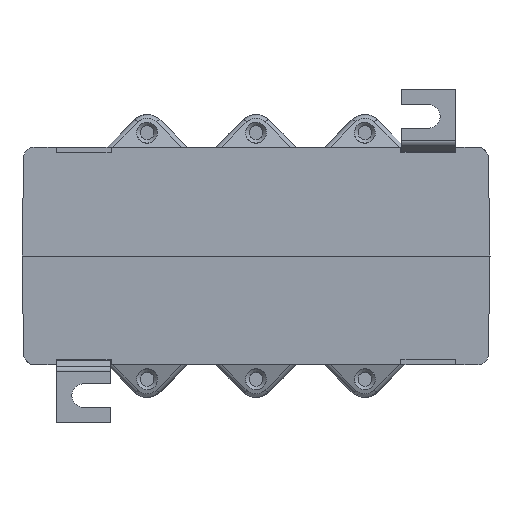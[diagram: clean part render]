
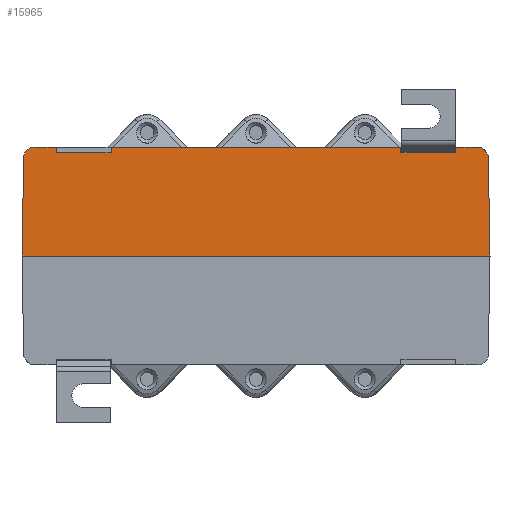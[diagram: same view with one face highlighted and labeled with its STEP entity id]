
A CAD part, front view. The second image highlights one B-rep face of the part: STEP entity #15965.
In plain terms, the highlighted planar face has unit normal (0, -1, 0.018).
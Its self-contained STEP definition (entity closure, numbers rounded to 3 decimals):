
#3136 = CARTESIAN_POINT ( 'NONE',  ( 64.5, -77.5, 0. ) ) ;
#3137 = DIRECTION ( 'NONE',  ( 1., 0., 0. ) ) ;
#8964 = CARTESIAN_POINT ( 'NONE',  ( 64.5, -76.976, 30. ) ) ;
#8966 = DIRECTION ( 'NONE',  ( 1., 0., 0. ) ) ;
#8976 = CARTESIAN_POINT ( 'NONE',  ( 64.5, -76.976, 30. ) ) ;
#8977 = DIRECTION ( 'NONE',  ( 1., 0., 0. ) ) ;
#8984 = CARTESIAN_POINT ( 'NONE',  ( 64.5, -76.976, 30. ) ) ;
#8985 = DIRECTION ( 'NONE',  ( 1., 0., 0. ) ) ;
#15965 = ADVANCED_FACE ( 'NONE', ( #33434 ), #66048, .T. ) ;
#16743 = LINE ( 'NONE', #18595, #16744 ) ;
#16744 = VECTOR ( 'NONE', #18597, 1000. ) ;
#16745 = LINE ( 'NONE', #18598, #16747 ) ;
#16746 = LINE ( 'NONE', #18593, #16756 ) ;
#16747 = VECTOR ( 'NONE', #18601, 1000. ) ;
#16748 = LINE ( 'NONE', #18603, #16750 ) ;
#16749 = LINE ( 'NONE', #18605, #16752 ) ;
#16750 = VECTOR ( 'NONE', #18604, 1000. ) ;
#16751 = LINE ( 'NONE', #18607, #16754 ) ;
#16752 = VECTOR ( 'NONE', #18606, 1000. ) ;
#16753 = VECTOR ( 'NONE', #18618, 1000. ) ;
#16754 = VECTOR ( 'NONE', #18609, 1000. ) ;
#16755 = LINE ( 'NONE', #18611, #16758 ) ;
#16756 = VECTOR ( 'NONE', #18610, 1000. ) ;
#16757 = LINE ( 'NONE', #18617, #16753 ) ;
#16758 = VECTOR ( 'NONE', #18613, 1000. ) ;
#18591 = CARTESIAN_POINT ( 'NONE',  ( 62.761, -76.976, 30. ) ) ;
#18593 = CARTESIAN_POINT ( 'NONE',  ( 64.5, -77.004, 28.4 ) ) ;
#18595 = CARTESIAN_POINT ( 'NONE',  ( 64.5, -77.5, 0. ) ) ;
#18596 = CARTESIAN_POINT ( 'NONE',  ( 63.998, -76.998, 28.785 ) ) ;
#18597 = DIRECTION ( 'NONE',  ( 0.017, -0.017, -1. ) ) ;
#18598 = CARTESIAN_POINT ( 'NONE',  ( 55.05, -77.5, 0. ) ) ;
#18599 = CARTESIAN_POINT ( 'NONE',  ( 64.028, -77.028, 27.052 ) ) ;
#18600 = CARTESIAN_POINT ( 'NONE',  ( 61.028, -76.976, 30. ) ) ;
#18601 = DIRECTION ( 'NONE',  ( 0., -0.017, -1. ) ) ;
#18603 = CARTESIAN_POINT ( 'NONE',  ( 64.5, -77.004, 28.4 ) ) ;
#18604 = DIRECTION ( 'NONE',  ( -1., 0., 0. ) ) ;
#18605 = CARTESIAN_POINT ( 'NONE',  ( 39.95, -77.5, 0. ) ) ;
#18606 = DIRECTION ( 'NONE',  ( 0., 0.017, 1. ) ) ;
#18607 = CARTESIAN_POINT ( 'NONE',  ( -39.95, -77.5, 0. ) ) ;
#18608 = CARTESIAN_POINT ( 'NONE',  ( -63.998, -76.998, 28.785 ) ) ;
#18609 = DIRECTION ( 'NONE',  ( 0., 0.017, 1. ) ) ;
#18610 = DIRECTION ( 'NONE',  ( -1., 0., 0. ) ) ;
#18611 = CARTESIAN_POINT ( 'NONE',  ( -55.05, -77.5, 0. ) ) ;
#18612 = CARTESIAN_POINT ( 'NONE',  ( -62.761, -76.976, 30. ) ) ;
#18613 = DIRECTION ( 'NONE',  ( 0., -0.017, -1. ) ) ;
#18615 = CARTESIAN_POINT ( 'NONE',  ( -61.028, -76.976, 30. ) ) ;
#18616 = CARTESIAN_POINT ( 'NONE',  ( -64.028, -77.028, 27.052 ) ) ;
#18617 = CARTESIAN_POINT ( 'NONE',  ( -64.461, -77.461, 2.25 ) ) ;
#18618 = DIRECTION ( 'NONE',  ( -0.017, -0.017, -1. ) ) ;
#24310 = AXIS2_PLACEMENT_3D ( 'NONE', #66052, #66061, #66063 ) ;
#31502 =( BOUNDED_CURVE ( )  B_SPLINE_CURVE ( 3, ( #18599, #18596, #18591, #18600 ),
 .UNSPECIFIED., .F., .F. ) 
 B_SPLINE_CURVE_WITH_KNOTS ( ( 4, 4 ),
 ( 4.73, 6.283 ),
 .UNSPECIFIED. ) 
 CURVE ( )  GEOMETRIC_REPRESENTATION_ITEM ( )  RATIONAL_B_SPLINE_CURVE ( ( 1., 0.809, 0.809, 1. ) ) 
 REPRESENTATION_ITEM ( '' )  );
#31504 =( BOUNDED_CURVE ( )  B_SPLINE_CURVE ( 3, ( #18615, #18612, #18608, #18616 ),
 .UNSPECIFIED., .F., .T. ) 
 B_SPLINE_CURVE_WITH_KNOTS ( ( 4, 4 ),
 ( 3.142, 4.695 ),
 .UNSPECIFIED. ) 
 CURVE ( )  GEOMETRIC_REPRESENTATION_ITEM ( )  RATIONAL_B_SPLINE_CURVE ( ( 1., 0.809, 0.809, 1. ) ) 
 REPRESENTATION_ITEM ( '' )  );
#33434 = FACE_OUTER_BOUND ( 'NONE', #48806, .T. ) ;
#37240 = EDGE_CURVE ( 'NONE', #38418, #67182, #16743, .T. ) ;
#37242 = EDGE_CURVE ( 'NONE', #38418, #38471, #31502, .T. ) ;
#37245 = EDGE_CURVE ( 'NONE', #38475, #38430, #16745, .T. ) ;
#37247 = EDGE_CURVE ( 'NONE', #38430, #38407, #16748, .T. ) ;
#37249 = EDGE_CURVE ( 'NONE', #38407, #38460, #16749, .T. ) ;
#37252 = EDGE_CURVE ( 'NONE', #38414, #38461, #16751, .T. ) ;
#37254 = EDGE_CURVE ( 'NONE', #38414, #38405, #16746, .T. ) ;
#37256 = EDGE_CURVE ( 'NONE', #38464, #38405, #16755, .T. ) ;
#37259 = EDGE_CURVE ( 'NONE', #38465, #38434, #31504, .T. ) ;
#37261 = EDGE_CURVE ( 'NONE', #38434, #67377, #16757, .T. ) ;
#38405 = VERTEX_POINT ( 'NONE', #62747 ) ;
#38407 = VERTEX_POINT ( 'NONE', #62749 ) ;
#38414 = VERTEX_POINT ( 'NONE', #62756 ) ;
#38418 = VERTEX_POINT ( 'NONE', #62760 ) ;
#38430 = VERTEX_POINT ( 'NONE', #62772 ) ;
#38434 = VERTEX_POINT ( 'NONE', #62776 ) ;
#38460 = VERTEX_POINT ( 'NONE', #62802 ) ;
#38461 = VERTEX_POINT ( 'NONE', #62803 ) ;
#38464 = VERTEX_POINT ( 'NONE', #62806 ) ;
#38465 = VERTEX_POINT ( 'NONE', #62807 ) ;
#38471 = VERTEX_POINT ( 'NONE', #62813 ) ;
#38475 = VERTEX_POINT ( 'NONE', #62817 ) ;
#45646 = EDGE_CURVE ( 'NONE', #67377, #67182, #45818, .T. ) ;
#45818 = LINE ( 'NONE', #3136, #45822 ) ;
#45822 = VECTOR ( 'NONE', #3137, 1000. ) ;
#48806 = EDGE_LOOP ( 'NONE', ( #52778, #52779, #52780, #52781, #52782, #52783, #52784, #52785, #52786, #52787, #52788, #52789, #52790, #52791 ) ) ;
#52778 = ORIENTED_EDGE ( 'NONE', *, *, #37240, .F. ) ;
#52779 = ORIENTED_EDGE ( 'NONE', *, *, #37242, .T. ) ;
#52780 = ORIENTED_EDGE ( 'NONE', *, *, #56516, .F. ) ;
#52781 = ORIENTED_EDGE ( 'NONE', *, *, #37245, .T. ) ;
#52782 = ORIENTED_EDGE ( 'NONE', *, *, #37247, .T. ) ;
#52783 = ORIENTED_EDGE ( 'NONE', *, *, #37249, .T. ) ;
#52784 = ORIENTED_EDGE ( 'NONE', *, *, #56526, .F. ) ;
#52785 = ORIENTED_EDGE ( 'NONE', *, *, #37252, .F. ) ;
#52786 = ORIENTED_EDGE ( 'NONE', *, *, #37254, .T. ) ;
#52787 = ORIENTED_EDGE ( 'NONE', *, *, #37256, .F. ) ;
#52788 = ORIENTED_EDGE ( 'NONE', *, *, #56522, .F. ) ;
#52789 = ORIENTED_EDGE ( 'NONE', *, *, #37259, .T. ) ;
#52790 = ORIENTED_EDGE ( 'NONE', *, *, #37261, .T. ) ;
#52791 = ORIENTED_EDGE ( 'NONE', *, *, #45646, .T. ) ;
#56516 = EDGE_CURVE ( 'NONE', #38475, #38471, #70946, .T. ) ;
#56522 = EDGE_CURVE ( 'NONE', #38465, #38464, #70970, .T. ) ;
#56526 = EDGE_CURVE ( 'NONE', #38461, #38460, #70986, .T. ) ;
#61695 = CARTESIAN_POINT ( 'NONE',  ( 64.5, -77.5, 0. ) ) ;
#61723 = CARTESIAN_POINT ( 'NONE',  ( -64.5, -77.5, 0. ) ) ;
#62747 = CARTESIAN_POINT ( 'NONE',  ( -55.05, -77.004, 28.4 ) ) ;
#62749 = CARTESIAN_POINT ( 'NONE',  ( 39.95, -77.004, 28.4 ) ) ;
#62756 = CARTESIAN_POINT ( 'NONE',  ( -39.95, -77.004, 28.4 ) ) ;
#62760 = CARTESIAN_POINT ( 'NONE',  ( 64.028, -77.028, 27.052 ) ) ;
#62772 = CARTESIAN_POINT ( 'NONE',  ( 55.05, -77.004, 28.4 ) ) ;
#62776 = CARTESIAN_POINT ( 'NONE',  ( -64.028, -77.028, 27.052 ) ) ;
#62802 = CARTESIAN_POINT ( 'NONE',  ( 39.95, -76.976, 30. ) ) ;
#62803 = CARTESIAN_POINT ( 'NONE',  ( -39.95, -76.976, 30. ) ) ;
#62806 = CARTESIAN_POINT ( 'NONE',  ( -55.05, -76.976, 30. ) ) ;
#62807 = CARTESIAN_POINT ( 'NONE',  ( -61.028, -76.976, 30. ) ) ;
#62813 = CARTESIAN_POINT ( 'NONE',  ( 61.028, -76.976, 30. ) ) ;
#62817 = CARTESIAN_POINT ( 'NONE',  ( 55.05, -76.976, 30. ) ) ;
#66048 = PLANE ( 'NONE',  #24310 ) ;
#66052 = CARTESIAN_POINT ( 'NONE',  ( 64.5, -77.5, 0. ) ) ;
#66061 = DIRECTION ( 'NONE',  ( 0., -1., 0.017 ) ) ;
#66063 = DIRECTION ( 'NONE',  ( 0., -0.017, -1. ) ) ;
#67182 = VERTEX_POINT ( 'NONE', #61695 ) ;
#67377 = VERTEX_POINT ( 'NONE', #61723 ) ;
#70946 = LINE ( 'NONE', #8964, #70951 ) ;
#70951 = VECTOR ( 'NONE', #8966, 1000. ) ;
#70970 = LINE ( 'NONE', #8976, #70977 ) ;
#70977 = VECTOR ( 'NONE', #8977, 1000. ) ;
#70986 = LINE ( 'NONE', #8984, #70993 ) ;
#70993 = VECTOR ( 'NONE', #8985, 1000. ) ;
